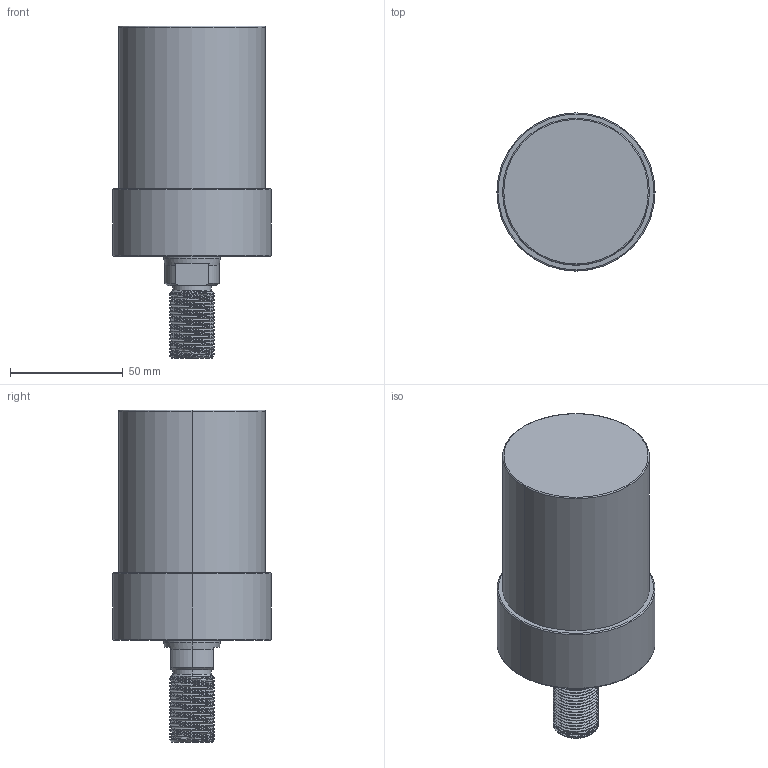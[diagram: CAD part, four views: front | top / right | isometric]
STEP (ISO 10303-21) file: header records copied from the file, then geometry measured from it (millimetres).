
FILE_DESCRIPTION (( 'STEP AP203' ), '1' );
FILE_NAME ('CLLU-065GT-055.STEP', '2020-01-16T01:16:21', ( '' ), ( '' ), 'SwSTEP 2.0', 'SolidWorks 2015', '' );
FILE_SCHEMA (( 'CONFIG_CONTROL_DESIGN' ));
Length unit declared in the file: millimetre
Products named in the file (1): CLLU-065GT-055
Bounding box: 70 x 70 x 147 mm (x, y, z)
Volume: 367274.6 mm3; surface area: 34219.4 mm2
Topology: 1 solids, 1 shells, 107 faces, 270 edges, 166 vertices
Faces by surface type: cylinder 61, cone 26, plane 12, torus 6, bspline 2
Entity records: 5359 total; most frequent: CARTESIAN_POINT 2958, ORIENTED_EDGE 524, DIRECTION 461, EDGE_CURVE 262, AXIS2_PLACEMENT_3D 184, VERTEX_POINT 166, EDGE_LOOP 116, FACE_OUTER_BOUND 107
